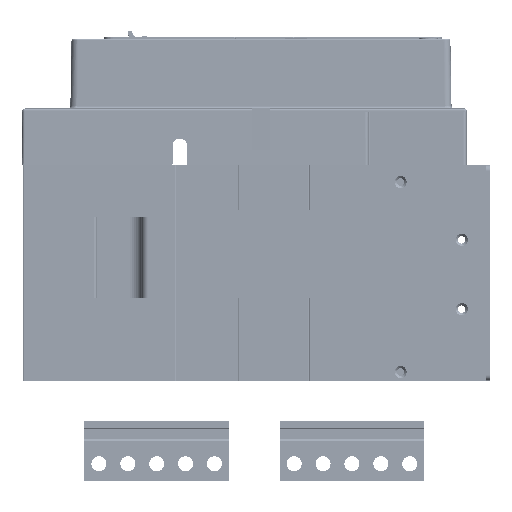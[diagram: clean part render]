
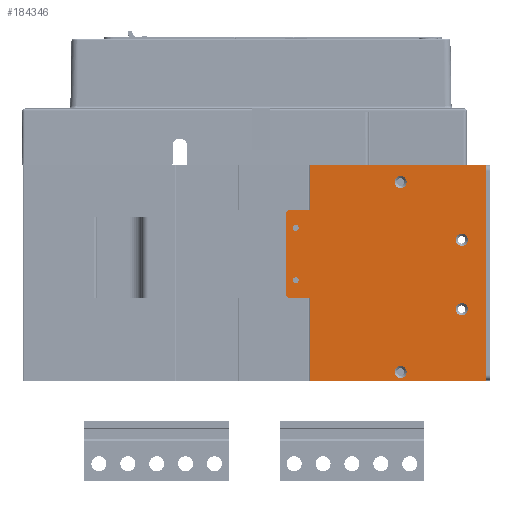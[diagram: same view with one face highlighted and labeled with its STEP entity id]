
A CAD part, left-side view. The second image highlights one B-rep face of the part: STEP entity #184346.
In plain terms, the highlighted planar face has unit normal (-1, 0, 0) as drawn and (1, 0, 0) by its records, which use the part's own axes.
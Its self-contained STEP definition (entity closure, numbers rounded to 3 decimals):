
#183284=DIRECTION('',(0.,1.,0.));
#183285=VECTOR('',#183284,155.);
#183286=CARTESIAN_POINT('',(3.2,3.7,-93.4));
#183287=LINE('',#183286,#183285);
#183404=DIRECTION('',(0.,1.,0.));
#183405=VECTOR('',#183404,155.);
#183406=CARTESIAN_POINT('',(3.2,3.7,93.4));
#183407=LINE('',#183406,#183405);
#183408=CARTESIAN_POINT('',(3.2,158.7,91.4));
#183409=DIRECTION('',(-1.,0.,0.));
#183410=DIRECTION('',(0.,0.,1.));
#183411=AXIS2_PLACEMENT_3D('',#183408,#183409,#183410);
#183413=DIRECTION('',(0.,0.,-1.));
#183414=VECTOR('',#183413,69.8);
#183415=CARTESIAN_POINT('',(3.2,160.7,91.4));
#183416=LINE('',#183415,#183414);
#183417=CARTESIAN_POINT('',(3.2,174.4,19.6));
#183418=DIRECTION('',(-1.,0.,0.));
#183419=DIRECTION('',(0.,0.,1.));
#183420=AXIS2_PLACEMENT_3D('',#183417,#183418,#183419);
#183422=CARTESIAN_POINT('',(3.2,174.4,-51.8));
#183423=DIRECTION('',(-1.,0.,0.));
#183424=DIRECTION('',(0.,1.,0.));
#183425=AXIS2_PLACEMENT_3D('',#183422,#183423,#183424);
#183427=DIRECTION('',(0.,-1.,0.));
#183428=VECTOR('',#183427,13.7);
#183429=CARTESIAN_POINT('',(3.2,174.4,-53.8));
#183430=LINE('',#183429,#183428);
#183431=CARTESIAN_POINT('',(3.2,158.7,-91.4));
#183432=DIRECTION('',(-1.,0.,0.));
#183433=DIRECTION('',(0.,1.,0.));
#183434=AXIS2_PLACEMENT_3D('',#183431,#183432,#183433);
#183436=CARTESIAN_POINT('',(3.2,168.2,6.6));
#183437=DIRECTION('',(1.,0.,0.));
#183438=DIRECTION('',(0.,0.,-1.));
#183439=AXIS2_PLACEMENT_3D('',#183436,#183437,#183438);
#183441=CARTESIAN_POINT('',(3.2,168.2,6.6));
#183442=DIRECTION('',(1.,0.,0.));
#183443=DIRECTION('',(0.,0.,1.));
#183444=AXIS2_PLACEMENT_3D('',#183441,#183442,#183443);
#183446=CARTESIAN_POINT('',(3.2,168.2,-38.8));
#183447=DIRECTION('',(1.,0.,0.));
#183448=DIRECTION('',(0.,0.,-1.));
#183449=AXIS2_PLACEMENT_3D('',#183446,#183447,#183448);
#183451=CARTESIAN_POINT('',(3.2,168.2,-38.8));
#183452=DIRECTION('',(1.,0.,0.));
#183453=DIRECTION('',(0.,0.,1.));
#183454=AXIS2_PLACEMENT_3D('',#183451,#183452,#183453);
#183456=CARTESIAN_POINT('',(3.2,77.4,-78.4));
#183457=DIRECTION('',(1.,0.,0.));
#183458=DIRECTION('',(0.,0.,-1.));
#183459=AXIS2_PLACEMENT_3D('',#183456,#183457,#183458);
#183461=CARTESIAN_POINT('',(3.2,77.4,-78.4));
#183462=DIRECTION('',(1.,0.,0.));
#183463=DIRECTION('',(0.,0.,1.));
#183464=AXIS2_PLACEMENT_3D('',#183461,#183462,#183463);
#183466=CARTESIAN_POINT('',(3.2,77.4,86.));
#183467=DIRECTION('',(1.,0.,0.));
#183468=DIRECTION('',(0.,0.,1.));
#183469=AXIS2_PLACEMENT_3D('',#183466,#183467,#183468);
#183471=CARTESIAN_POINT('',(3.2,77.4,86.));
#183472=DIRECTION('',(1.,0.,0.));
#183473=DIRECTION('',(0.,0.,-1.));
#183474=AXIS2_PLACEMENT_3D('',#183471,#183472,#183473);
#183476=CARTESIAN_POINT('',(3.2,24.5,31.6));
#183477=DIRECTION('',(1.,0.,0.));
#183478=DIRECTION('',(0.,0.,1.));
#183479=AXIS2_PLACEMENT_3D('',#183476,#183477,#183478);
#183481=CARTESIAN_POINT('',(3.2,24.5,31.6));
#183482=DIRECTION('',(1.,0.,0.));
#183483=DIRECTION('',(0.,0.,-1.));
#183484=AXIS2_PLACEMENT_3D('',#183481,#183482,#183483);
#183486=CARTESIAN_POINT('',(3.2,24.5,-28.4));
#183487=DIRECTION('',(1.,0.,0.));
#183488=DIRECTION('',(0.,0.,1.));
#183489=AXIS2_PLACEMENT_3D('',#183486,#183487,#183488);
#183491=CARTESIAN_POINT('',(3.2,24.5,-28.4));
#183492=DIRECTION('',(1.,0.,0.));
#183493=DIRECTION('',(0.,0.,-1.));
#183494=AXIS2_PLACEMENT_3D('',#183491,#183492,#183493);
#183496=DIRECTION('',(0.,0.,-1.));
#183497=VECTOR('',#183496,186.8);
#183498=CARTESIAN_POINT('',(3.2,3.7,93.4));
#183499=LINE('',#183498,#183497);
#183710=DIRECTION('',(0.,-1.,0.));
#183711=VECTOR('',#183710,13.7);
#183712=CARTESIAN_POINT('',(3.2,174.4,21.6));
#183713=LINE('',#183712,#183711);
#183726=DIRECTION('',(0.,0.,1.));
#183727=VECTOR('',#183726,71.4);
#183728=CARTESIAN_POINT('',(3.2,176.4,-51.8));
#183729=LINE('',#183728,#183727);
#183742=DIRECTION('',(0.,0.,1.));
#183743=VECTOR('',#183742,37.6);
#183744=CARTESIAN_POINT('',(3.2,160.7,-91.4));
#183745=LINE('',#183744,#183743);
#183964=CARTESIAN_POINT('',(3.2,3.7,-93.4));
#183965=VERTEX_POINT('',#183964);
#183966=CARTESIAN_POINT('',(3.2,158.7,-93.4));
#183967=VERTEX_POINT('',#183966);
#184016=CARTESIAN_POINT('',(3.2,160.7,-91.4));
#184017=VERTEX_POINT('',#184016);
#184018=CARTESIAN_POINT('',(3.2,3.7,93.4));
#184019=VERTEX_POINT('',#184018);
#184020=CARTESIAN_POINT('',(3.2,158.7,93.4));
#184021=VERTEX_POINT('',#184020);
#184022=CARTESIAN_POINT('',(3.2,160.7,91.4));
#184023=VERTEX_POINT('',#184022);
#184024=CARTESIAN_POINT('',(3.2,160.7,21.6));
#184025=VERTEX_POINT('',#184024);
#184026=CARTESIAN_POINT('',(3.2,174.4,21.6));
#184027=VERTEX_POINT('',#184026);
#184028=CARTESIAN_POINT('',(3.2,176.4,19.6));
#184029=VERTEX_POINT('',#184028);
#184030=CARTESIAN_POINT('',(3.2,176.4,-51.8));
#184031=VERTEX_POINT('',#184030);
#184032=CARTESIAN_POINT('',(3.2,174.4,-53.8));
#184033=VERTEX_POINT('',#184032);
#184034=CARTESIAN_POINT('',(3.2,160.7,-53.8));
#184035=VERTEX_POINT('',#184034);
#184036=CARTESIAN_POINT('',(3.2,168.2,4.));
#184037=CARTESIAN_POINT('',(3.2,168.2,9.2));
#184038=VERTEX_POINT('',#184036);
#184039=VERTEX_POINT('',#184037);
#184040=CARTESIAN_POINT('',(3.2,168.2,-41.4));
#184041=CARTESIAN_POINT('',(3.2,168.2,-36.2));
#184042=VERTEX_POINT('',#184040);
#184043=VERTEX_POINT('',#184041);
#184044=CARTESIAN_POINT('',(3.2,77.4,-83.65));
#184045=CARTESIAN_POINT('',(3.2,77.4,-73.15));
#184046=VERTEX_POINT('',#184044);
#184047=VERTEX_POINT('',#184045);
#184048=CARTESIAN_POINT('',(3.2,77.4,91.25));
#184049=CARTESIAN_POINT('',(3.2,77.4,80.75));
#184050=VERTEX_POINT('',#184048);
#184051=VERTEX_POINT('',#184049);
#184052=CARTESIAN_POINT('',(3.2,24.5,36.85));
#184053=CARTESIAN_POINT('',(3.2,24.5,26.35));
#184054=VERTEX_POINT('',#184052);
#184055=VERTEX_POINT('',#184053);
#184056=CARTESIAN_POINT('',(3.2,24.5,-23.15));
#184057=CARTESIAN_POINT('',(3.2,24.5,-33.65));
#184058=VERTEX_POINT('',#184056);
#184059=VERTEX_POINT('',#184057);
#184281=CARTESIAN_POINT('',(3.2,3.2,-93.4));
#184282=DIRECTION('',(1.,0.,0.));
#184283=DIRECTION('',(0.,1.,0.));
#184284=AXIS2_PLACEMENT_3D('',#184281,#184282,#184283);
#184285=PLANE('',#184284);
#184287=ORIENTED_EDGE('',*,*,#184286,.F.);
#184289=ORIENTED_EDGE('',*,*,#184288,.T.);
#184291=ORIENTED_EDGE('',*,*,#184290,.T.);
#184293=ORIENTED_EDGE('',*,*,#184292,.T.);
#184295=ORIENTED_EDGE('',*,*,#184294,.F.);
#184297=ORIENTED_EDGE('',*,*,#184296,.T.);
#184299=ORIENTED_EDGE('',*,*,#184298,.F.);
#184301=ORIENTED_EDGE('',*,*,#184300,.T.);
#184303=ORIENTED_EDGE('',*,*,#184302,.T.);
#184305=ORIENTED_EDGE('',*,*,#184304,.F.);
#184306=ORIENTED_EDGE('',*,*,#184272,.T.);
#184307=ORIENTED_EDGE('',*,*,#184177,.F.);
#184308=EDGE_LOOP('',(#184287,#184289,#184291,#184293,#184295,#184297,#184299,
#184301,#184303,#184305,#184306,#184307));
#184309=FACE_OUTER_BOUND('',#184308,.F.);
#184311=ORIENTED_EDGE('',*,*,#184310,.T.);
#184313=ORIENTED_EDGE('',*,*,#184312,.T.);
#184314=EDGE_LOOP('',(#184311,#184313));
#184315=FACE_BOUND('',#184314,.F.);
#184317=ORIENTED_EDGE('',*,*,#184316,.T.);
#184319=ORIENTED_EDGE('',*,*,#184318,.T.);
#184320=EDGE_LOOP('',(#184317,#184319));
#184321=FACE_BOUND('',#184320,.F.);
#184323=ORIENTED_EDGE('',*,*,#184322,.T.);
#184325=ORIENTED_EDGE('',*,*,#184324,.T.);
#184326=EDGE_LOOP('',(#184323,#184325));
#184327=FACE_BOUND('',#184326,.F.);
#184329=ORIENTED_EDGE('',*,*,#184328,.T.);
#184331=ORIENTED_EDGE('',*,*,#184330,.T.);
#184332=EDGE_LOOP('',(#184329,#184331));
#184333=FACE_BOUND('',#184332,.F.);
#184335=ORIENTED_EDGE('',*,*,#184334,.T.);
#184337=ORIENTED_EDGE('',*,*,#184336,.T.);
#184338=EDGE_LOOP('',(#184335,#184337));
#184339=FACE_BOUND('',#184338,.F.);
#184341=ORIENTED_EDGE('',*,*,#184340,.T.);
#184343=ORIENTED_EDGE('',*,*,#184342,.T.);
#184344=EDGE_LOOP('',(#184341,#184343));
#184345=FACE_BOUND('',#184344,.F.);
#184346=ADVANCED_FACE('',(#184309,#184315,#184321,#184327,#184333,#184339,
#184345),#184285,.T.);
#183412=CIRCLE('',#183411,2.);
#183421=CIRCLE('',#183420,2.);
#183426=CIRCLE('',#183425,2.);
#183435=CIRCLE('',#183434,2.);
#183440=CIRCLE('',#183439,2.6);
#183445=CIRCLE('',#183444,2.6);
#183450=CIRCLE('',#183449,2.6);
#183455=CIRCLE('',#183454,2.6);
#183460=CIRCLE('',#183459,5.25);
#183465=CIRCLE('',#183464,5.25);
#183470=CIRCLE('',#183469,5.25);
#183475=CIRCLE('',#183474,5.25);
#183480=CIRCLE('',#183479,5.25);
#183485=CIRCLE('',#183484,5.25);
#183490=CIRCLE('',#183489,5.25);
#183495=CIRCLE('',#183494,5.25);
#184177=EDGE_CURVE('',#183965,#183967,#183287,.T.);
#184272=EDGE_CURVE('',#184017,#183967,#183435,.T.);
#184286=EDGE_CURVE('',#184019,#183965,#183499,.T.);
#184288=EDGE_CURVE('',#184019,#184021,#183407,.T.);
#184290=EDGE_CURVE('',#184021,#184023,#183412,.T.);
#184292=EDGE_CURVE('',#184023,#184025,#183416,.T.);
#184294=EDGE_CURVE('',#184027,#184025,#183713,.T.);
#184296=EDGE_CURVE('',#184027,#184029,#183421,.T.);
#184298=EDGE_CURVE('',#184031,#184029,#183729,.T.);
#184300=EDGE_CURVE('',#184031,#184033,#183426,.T.);
#184302=EDGE_CURVE('',#184033,#184035,#183430,.T.);
#184304=EDGE_CURVE('',#184017,#184035,#183745,.T.);
#184310=EDGE_CURVE('',#184038,#184039,#183440,.T.);
#184312=EDGE_CURVE('',#184039,#184038,#183445,.T.);
#184316=EDGE_CURVE('',#184042,#184043,#183450,.T.);
#184318=EDGE_CURVE('',#184043,#184042,#183455,.T.);
#184322=EDGE_CURVE('',#184046,#184047,#183460,.T.);
#184324=EDGE_CURVE('',#184047,#184046,#183465,.T.);
#184328=EDGE_CURVE('',#184050,#184051,#183470,.T.);
#184330=EDGE_CURVE('',#184051,#184050,#183475,.T.);
#184334=EDGE_CURVE('',#184054,#184055,#183480,.T.);
#184336=EDGE_CURVE('',#184055,#184054,#183485,.T.);
#184340=EDGE_CURVE('',#184058,#184059,#183490,.T.);
#184342=EDGE_CURVE('',#184059,#184058,#183495,.T.);
